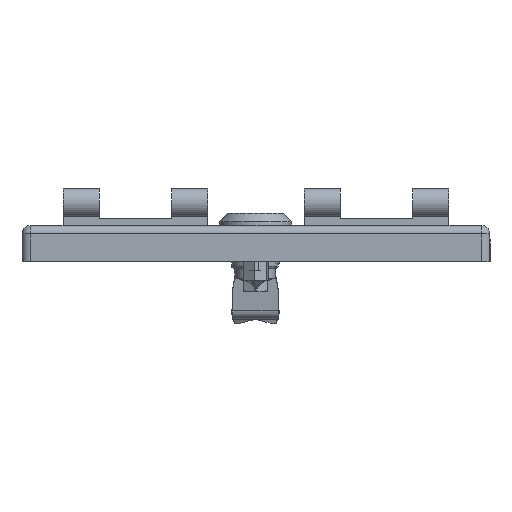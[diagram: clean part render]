
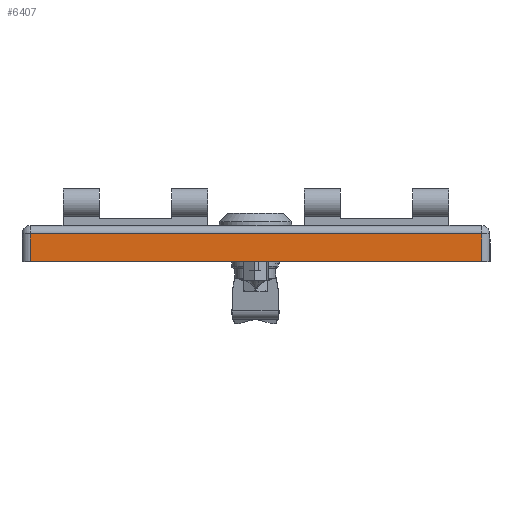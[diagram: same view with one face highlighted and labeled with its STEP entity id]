
A CAD part, left-side view. The second image highlights one B-rep face of the part: STEP entity #6407.
In plain terms, the highlighted planar face has unit normal (-1, 0, 0).
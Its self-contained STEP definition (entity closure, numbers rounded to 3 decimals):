
#453 = CARTESIAN_POINT ( 'NONE',  ( -292.5, -93.5, -15. ) ) ;
#461 = DIRECTION ( 'NONE',  ( 0., 0., 1. ) ) ;
#523 = CARTESIAN_POINT ( 'NONE',  ( -292.5, -93.5, -3.5 ) ) ;
#810 = CARTESIAN_POINT ( 'NONE',  ( -292.5, 93.5, -3.5 ) ) ;
#889 = CARTESIAN_POINT ( 'NONE',  ( -292.5, 93.5, -15. ) ) ;
#932 = CARTESIAN_POINT ( 'NONE',  ( -292.5, -93.5, -15. ) ) ;
#1092 = EDGE_CURVE ( 'NONE', #4234, #4872, #4990, .T. ) ;
#1227 = CARTESIAN_POINT ( 'NONE',  ( -292.5, 93.5, -15. ) ) ;
#1244 = DIRECTION ( 'NONE',  ( 0., 0., -1. ) ) ;
#1253 = CARTESIAN_POINT ( 'NONE',  ( -292.5, 97., -3.5 ) ) ;
#1254 = DIRECTION ( 'NONE',  ( 0., 1., 0. ) ) ;
#1316 = CARTESIAN_POINT ( 'NONE',  ( -292.5, 97., -15. ) ) ;
#1317 = DIRECTION ( 'NONE',  ( 0., -1., 0. ) ) ;
#3972 = ORIENTED_EDGE ( 'NONE', *, *, #10551, .T. ) ;
#4023 = ORIENTED_EDGE ( 'NONE', *, *, #1092, .T. ) ;
#4026 = ORIENTED_EDGE ( 'NONE', *, *, #10580, .T. ) ;
#4037 = ORIENTED_EDGE ( 'NONE', *, *, #10547, .T. ) ;
#4234 = VERTEX_POINT ( 'NONE', #932 ) ;
#4245 = VERTEX_POINT ( 'NONE', #889 ) ;
#4283 = VERTEX_POINT ( 'NONE', #810 ) ;
#4872 = VERTEX_POINT ( 'NONE', #523 ) ;
#4990 = LINE ( 'NONE', #453, #4994 ) ;
#4994 = VECTOR ( 'NONE', #461, 1000. ) ;
#5307 = EDGE_LOOP ( 'NONE', ( #4026, #4023, #3972, #4037 ) ) ;
#6032 = AXIS2_PLACEMENT_3D ( 'NONE', #10235, #10204, #10130 ) ;
#6407 = ADVANCED_FACE ( 'NONE', ( #8593 ), #10178, .T. ) ;
#7590 = LINE ( 'NONE', #1227, #7622 ) ;
#7622 = VECTOR ( 'NONE', #1244, 1000. ) ;
#7626 = LINE ( 'NONE', #1253, #7629 ) ;
#7629 = VECTOR ( 'NONE', #1254, 1000. ) ;
#7679 = LINE ( 'NONE', #1316, #7682 ) ;
#7682 = VECTOR ( 'NONE', #1317, 1000. ) ;
#8593 = FACE_OUTER_BOUND ( 'NONE', #5307, .T. ) ;
#10130 = DIRECTION ( 'NONE',  ( 0., -1., 0. ) ) ;
#10178 = PLANE ( 'NONE',  #6032 ) ;
#10204 = DIRECTION ( 'NONE',  ( -1., 0., 0. ) ) ;
#10235 = CARTESIAN_POINT ( 'NONE',  ( -292.5, 97., -15. ) ) ;
#10547 = EDGE_CURVE ( 'NONE', #4283, #4245, #7590, .T. ) ;
#10551 = EDGE_CURVE ( 'NONE', #4872, #4283, #7626, .T. ) ;
#10580 = EDGE_CURVE ( 'NONE', #4245, #4234, #7679, .T. ) ;
